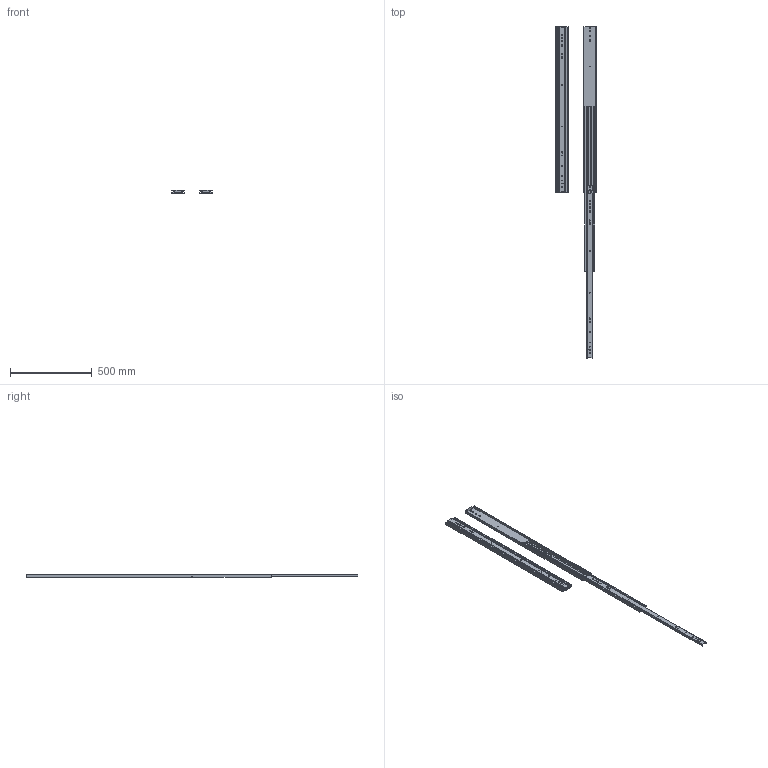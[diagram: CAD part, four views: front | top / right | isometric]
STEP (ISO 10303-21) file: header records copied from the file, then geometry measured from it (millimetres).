
FILE_DESCRIPTION((''),'2;1');
FILE_NAME('ASSEM1_1_2_3_4_5_6_7_8_9_10__16_ASM','2026-04-08T08:53:32',('T260078'),(''),'CREO PARAMETRIC BY PTC INC, 2025123','CREO PARAMETRIC BY PTC INC, 2025123','');
FILE_SCHEMA(('CONFIG_CONTROL_DESIGN','SHAPE_APPEARANCE_LAYERS_GROUPS'));
Length unit declared in the file: millimetre
Products named in the file (6): 76J01-40_X2_540B_X0_-M; 76J01-40_X2_540B_X0_-I; 76J01-40_X2_540B_X0_-O; 76J01-40_X2_540_X0__ASM; 76J01-40_X2_540B_X0_-_X2_5C5595_ASM; ASSEM1_1_2_3_4_5_6_7_8_9_10__16_ASM
Assembly tree (8 placements, depth 3):
  ASSEM1_1_2_3_4_5_6_7_8_9_10__16_ASM
    76J01-40_X2_540_X0__ASM
      76J01-40_X2_540B_X0_-M
      76J01-40_X2_540B_X0_-I
      76J01-40_X2_540B_X0_-O
    76J01-40_X2_540B_X0_-_X2_5C5595_ASM
      76J01-40_X2_540B_X0_-M
      76J01-40_X2_540B_X0_-I
      76J01-40_X2_540B_X0_-O
Bounding box: 245.44 x 2032 x 19.3 mm (x, y, z)
Volume: 1254040.9 mm3; surface area: 1118804.7 mm2
Topology: 6 solids, 6 shells, 408 faces, 1306 edges, 898 vertices
Faces by surface type: cylinder 208, plane 200
Entity records: 8896 total; most frequent: CARTESIAN_POINT 1352, DIRECTION 1334, ORIENTED_EDGE 1306, EDGE_CURVE 653, AXIS2_PLACEMENT_3D 466, VERTEX_POINT 449, VECTOR 402, LINE 402
